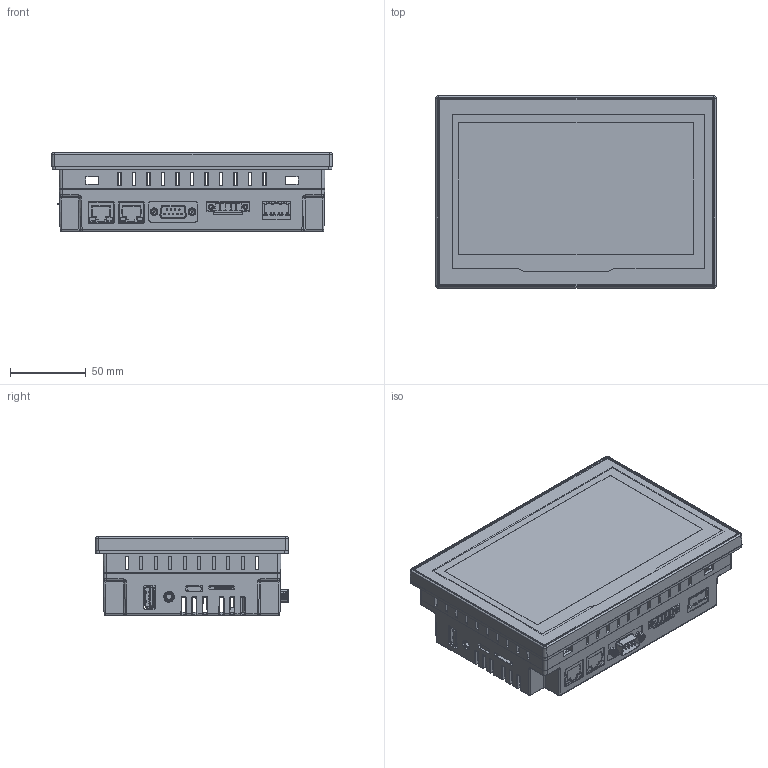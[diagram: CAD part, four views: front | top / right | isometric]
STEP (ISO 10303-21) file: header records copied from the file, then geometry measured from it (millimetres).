
FILE_DESCRIPTION (( 'STEP AP203' ), '1' );
FILE_NAME ('CM-eXT2-07-R-DF.STEP', '2025-06-27T05:00:41', ( '' ), ( '' ), 'SwSTEP 2.0', 'SolidWorks 2024', '' );
FILE_SCHEMA (( 'CONFIG_CONTROL_DESIGN' ));
Products named in the file (1): CM-eXT2-07-R-DF
Bounding box: 185 x 127 x 51.9 mm (x, y, z)
Volume: 177962.5 mm3; surface area: 188782.3 mm2
Topology: 1 solids, 9 shells, 5629 faces, 15632 edges, 10080 vertices
Faces by surface type: plane 3681, cylinder 1253, bspline 386, sphere 145, cone 126, torus 38
Entity records: 197653 total; most frequent: CARTESIAN_POINT 56801, ORIENTED_EDGE 31038, DIRECTION 26842, EDGE_CURVE 15519, LINE 11474, VECTOR 11474, VERTEX_POINT 10062, AXIS2_PLACEMENT_3D 7684
